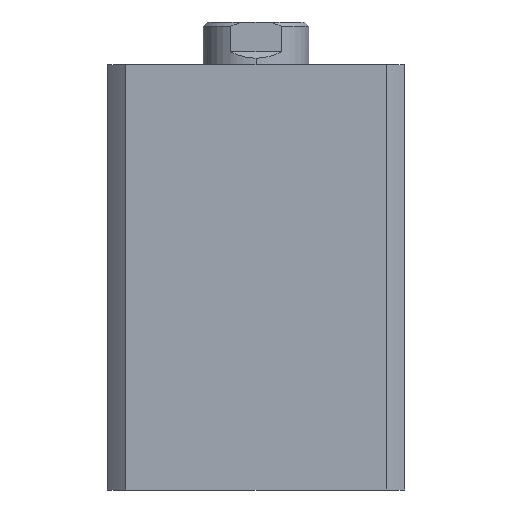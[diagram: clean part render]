
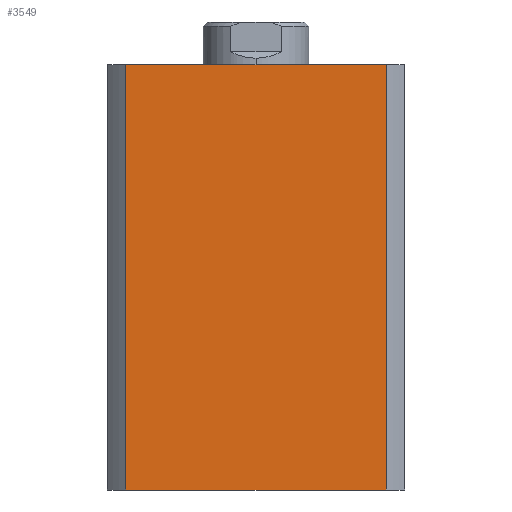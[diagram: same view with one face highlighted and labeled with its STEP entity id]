
A CAD part, left-side view. The second image highlights one B-rep face of the part: STEP entity #3549.
In plain terms, the highlighted planar face has unit normal (-1, 0, 0).
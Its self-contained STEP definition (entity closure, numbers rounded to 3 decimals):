
#96 = AXIS2_PLACEMENT_3D ( 'NONE', #2851, #2859, #2860 ) ;
#303 = EDGE_CURVE ( 'NONE', #4174, #4598, #1292, .T. ) ;
#304 = EDGE_CURVE ( 'NONE', #4596, #4598, #1296, .T. ) ;
#305 = EDGE_CURVE ( 'NONE', #4172, #4596, #1295, .T. ) ;
#326 = EDGE_CURVE ( 'NONE', #4172, #4174, #1330, .T. ) ;
#1292 = LINE ( 'NONE', #4781, #1297 ) ;
#1295 = LINE ( 'NONE', #4802, #1301 ) ;
#1296 = LINE ( 'NONE', #4792, #1299 ) ;
#1297 = VECTOR ( 'NONE', #4817, 1000. ) ;
#1299 = VECTOR ( 'NONE', #4789, 1000. ) ;
#1301 = VECTOR ( 'NONE', #4786, 1000. ) ;
#1330 = LINE ( 'NONE', #4874, #1332 ) ;
#1332 = VECTOR ( 'NONE', #4875, 1000. ) ;
#1741 = FACE_OUTER_BOUND ( 'NONE', #4071, .T. ) ;
#2851 = CARTESIAN_POINT ( 'NONE',  ( -35., 0., 100. ) ) ;
#2856 = PLANE ( 'NONE',  #96 ) ;
#2859 = DIRECTION ( 'NONE',  ( 1., 0., 0. ) ) ;
#2860 = DIRECTION ( 'NONE',  ( 0., 1., 0. ) ) ;
#3095 = CARTESIAN_POINT ( 'NONE',  ( -35., 30.615, 100. ) ) ;
#3096 = CARTESIAN_POINT ( 'NONE',  ( -35., -30.615, 100. ) ) ;
#3190 = CARTESIAN_POINT ( 'NONE',  ( -35., 30.615, 0. ) ) ;
#3197 = CARTESIAN_POINT ( 'NONE',  ( -35., -30.615, 0. ) ) ;
#3549 = ADVANCED_FACE ( 'NONE', ( #1741 ), #2856, .F. ) ;
#4071 = EDGE_LOOP ( 'NONE', ( #4499, #4495, #4494, #4507 ) ) ;
#4172 = VERTEX_POINT ( 'NONE', #3095 ) ;
#4174 = VERTEX_POINT ( 'NONE', #3096 ) ;
#4494 = ORIENTED_EDGE ( 'NONE', *, *, #326, .F. ) ;
#4495 = ORIENTED_EDGE ( 'NONE', *, *, #303, .F. ) ;
#4499 = ORIENTED_EDGE ( 'NONE', *, *, #304, .T. ) ;
#4507 = ORIENTED_EDGE ( 'NONE', *, *, #305, .T. ) ;
#4596 = VERTEX_POINT ( 'NONE', #3190 ) ;
#4598 = VERTEX_POINT ( 'NONE', #3197 ) ;
#4781 = CARTESIAN_POINT ( 'NONE',  ( -35., -30.615, 100. ) ) ;
#4786 = DIRECTION ( 'NONE',  ( 0., 0., -1. ) ) ;
#4789 = DIRECTION ( 'NONE',  ( 0., -1., 0. ) ) ;
#4792 = CARTESIAN_POINT ( 'NONE',  ( -35., 0., 0. ) ) ;
#4802 = CARTESIAN_POINT ( 'NONE',  ( -35., 30.615, 100. ) ) ;
#4817 = DIRECTION ( 'NONE',  ( 0., 0., -1. ) ) ;
#4874 = CARTESIAN_POINT ( 'NONE',  ( -35., 0., 100. ) ) ;
#4875 = DIRECTION ( 'NONE',  ( 0., -1., 0. ) ) ;
